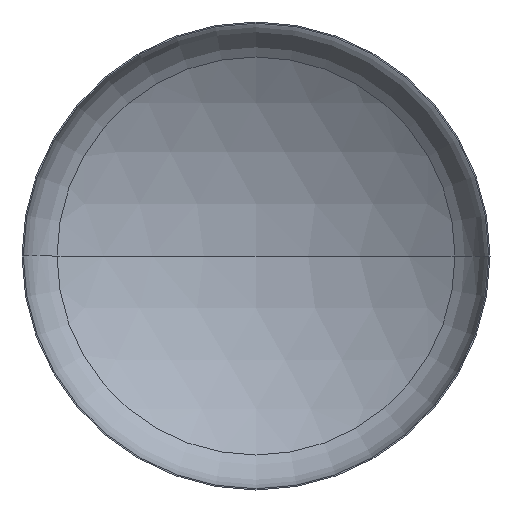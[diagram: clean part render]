
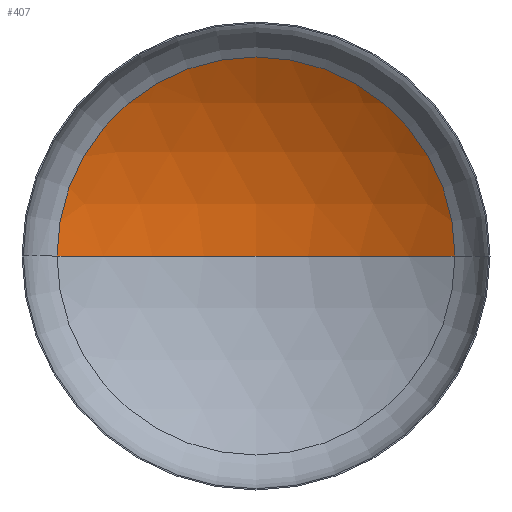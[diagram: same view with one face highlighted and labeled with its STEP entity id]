
A CAD part, front view. The second image highlights one B-rep face of the part: STEP entity #407.
In plain terms, the highlighted spherical face has radius 3040 mm.
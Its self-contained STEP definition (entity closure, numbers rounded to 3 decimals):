
#3 = AXIS2_PLACEMENT_3D ( 'NONE', #41, #229, #403 ) ;
#5 = EDGE_LOOP ( 'NONE', ( #66, #14, #49 ) ) ;
#8 = DIRECTION ( 'NONE',  ( 1., 0., 0. ) ) ;
#10 = AXIS2_PLACEMENT_3D ( 'NONE', #164, #371, #8 ) ;
#14 = ORIENTED_EDGE ( 'NONE', *, *, #358, .T. ) ;
#22 = AXIS2_PLACEMENT_3D ( 'NONE', #328, #105, #296 ) ;
#41 = CARTESIAN_POINT ( 'NONE',  ( 0., -2049.423, 0. ) ) ;
#49 = ORIENTED_EDGE ( 'NONE', *, *, #362, .T. ) ;
#66 = ORIENTED_EDGE ( 'NONE', *, *, #342, .F. ) ;
#105 = DIRECTION ( 'NONE',  ( 0., 0., -1. ) ) ;
#127 = VERTEX_POINT ( 'NONE', #315 ) ;
#133 = CIRCLE ( 'NONE', #3, 3040. ) ;
#137 = VERTEX_POINT ( 'NONE', #314 ) ;
#160 = VERTEX_POINT ( 'NONE', #196 ) ;
#164 = CARTESIAN_POINT ( 'NONE',  ( 0., -2049.423, 0. ) ) ;
#192 = CIRCLE ( 'NONE', #313, 1615.967 ) ;
#196 = CARTESIAN_POINT ( 'NONE',  ( 1615.967, 525.504, 0. ) ) ;
#207 = CARTESIAN_POINT ( 'NONE',  ( 0., 525.504, 0. ) ) ;
#209 = DIRECTION ( 'NONE',  ( 0., -1., 0. ) ) ;
#229 = DIRECTION ( 'NONE',  ( 0., 0., -1. ) ) ;
#241 = SPHERICAL_SURFACE ( 'NONE', #22, 3040. ) ;
#257 = CIRCLE ( 'NONE', #10, 3040. ) ;
#296 = DIRECTION ( 'NONE',  ( -1., 0., 0. ) ) ;
#313 = AXIS2_PLACEMENT_3D ( 'NONE', #207, #209, #381 ) ;
#314 = CARTESIAN_POINT ( 'NONE',  ( 0., 990.577, 0. ) ) ;
#315 = CARTESIAN_POINT ( 'NONE',  ( -1615.967, 525.504, 0. ) ) ;
#328 = CARTESIAN_POINT ( 'NONE',  ( 0., -2049.423, 0. ) ) ;
#342 = EDGE_CURVE ( 'NONE', #137, #127, #257, .T. ) ;
#358 = EDGE_CURVE ( 'NONE', #137, #160, #133, .T. ) ;
#362 = EDGE_CURVE ( 'NONE', #160, #127, #192, .T. ) ;
#371 = DIRECTION ( 'NONE',  ( 0., 0., 1. ) ) ;
#381 = DIRECTION ( 'NONE',  ( 1., 0., 0. ) ) ;
#384 = FACE_OUTER_BOUND ( 'NONE', #5, .T. ) ;
#403 = DIRECTION ( 'NONE',  ( -1., 0., 0. ) ) ;
#407 = ADVANCED_FACE ( 'NONE', ( #384 ), #241, .F. ) ;
